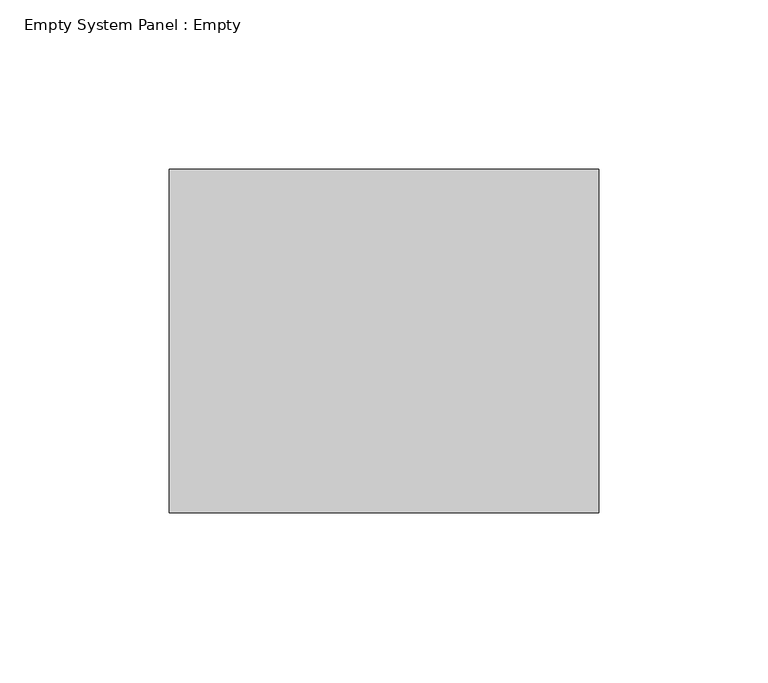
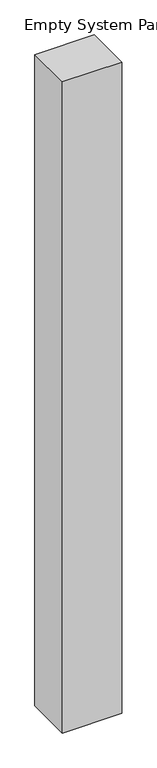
"""IFC4 building model written with IfcOpenShell, lengths in millimetres: plate geometry, Empty System Panel : Empty."""

from ifc_helpers import new_model, si_unit, origin, origin_with_axes, place, context, project, spatial, polyline, outline, extrude, source, transform, mapped, element, save


def empty_system_panel_empty_a1b9e2ad(model_context):
    return source(origin(), model_context, "Body", "SweptSolid", [
        extrude(outline(polyline([(63.5, -50.8), (-63.5, -50.8), (-63.5, 50.8), (63.5, 50.8), (63.5, -50.8)])), origin_with_axes(), (0.0, 0.0, 1.0), 1473.2),
    ])


if __name__ == "__main__":
    model = new_model("IFC4")
    model_context = context("Model", 3, world=origin())
    ifc_project = project(units=[si_unit("LENGTHUNIT", "METRE", prefix="MILLI")], contexts=[model_context])
    site = spatial("IfcSite", under=ifc_project)
    building = spatial("IfcBuilding", under=site)
    placement = place(None, origin())
    empty_system_panel_empty_shape = empty_system_panel_empty_a1b9e2ad(model_context)
    element("IfcPlate", 1, ObjectType="Empty System Panel : Empty", at=placement, inside=building, context=model_context, shape_type="MappedRepresentation", body=[
        mapped(empty_system_panel_empty_shape, transform((0.0, 0.0, 0.0), x_axis=(1.0, 0.0, 0.0), y_axis=(0.0, 1.0, 0.0), z_axis=(0.0, 0.0, 1.0))),
    ])
    save(model, "model.ifc")
